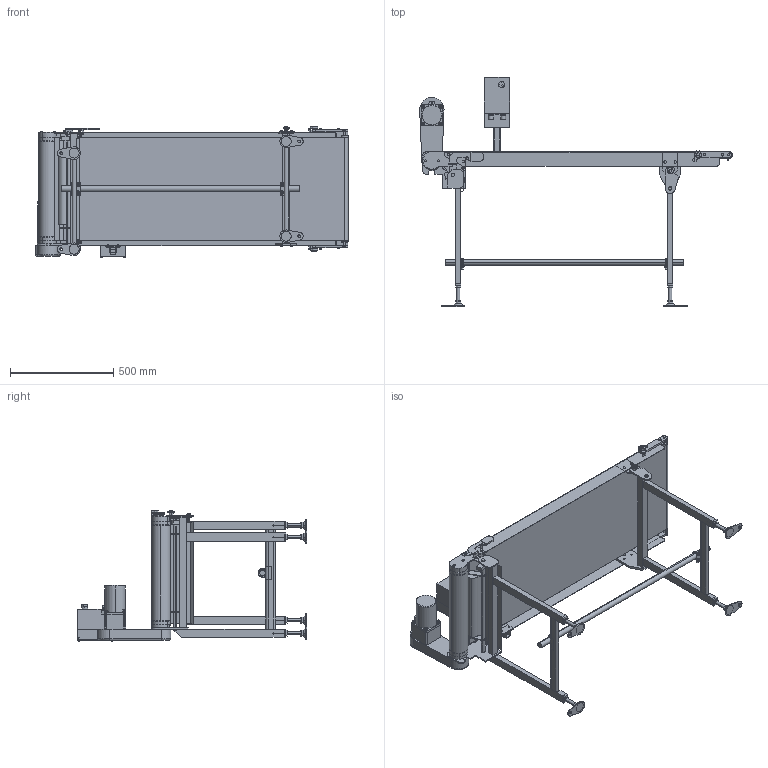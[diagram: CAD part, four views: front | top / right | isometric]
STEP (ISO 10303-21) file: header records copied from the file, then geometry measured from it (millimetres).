
FILE_DESCRIPTION( (''), '2;1');
FILE_NAME ('TBH200-OD-309-500-150-R-IVH-60.stp','2025-01-30T14:48:41',(''),(''),'spGate 20.6.2 (****-****-****-****)','','');
FILE_SCHEMA (('AUTOMOTIVE_DESIGN'));
Length unit declared in the file: millimetre
Products named in the file (80): NewModel; TEMP_X_T-prt0; TEMP_X_T-prt1; TEMP_X_T-prt2; TEMP_X_T-prt3; TEMP_X_T-prt4; TEMP_X_T-prt5; TEMP_X_T-prt6; TEMP_X_T-prt7; TEMP_X_T-prt8; TEMP_X_T-prt9; TEMP_X_T-prt10; TEMP_X_T-prt11; TEMP_X_T-prt12; TEMP_X_T-prt13; TEMP_X_T-prt14; TEMP_X_T-prt15; TEMP_X_T-prt16; TEMP_X_T-prt17; TEMP_X_T-prt18; TEMP_X_T-prt19; TEMP_X_T-prt20; TEMP_X_T-prt21; TEMP_X_T-prt22; TEMP_X_T-prt23; TEMP_X_T-prt24; TEMP_X_T-prt25; TEMP_X_T-prt26; TEMP_X_T-prt27; TEMP_X_T-prt28; TEMP_X_T-prt29; TEMP_X_T-prt30; TEMP_X_T-prt31; TEMP_X_T-prt32; TEMP_X_T-prt33; TEMP_X_T-prt34; TEMP_X_T-prt35; TEMP_X_T-prt36; TEMP_X_T-prt37; TEMP_X_T-prt38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
Assembly tree (79 placements, depth 2):
  NewModel
    TEMP_X_T-prt0
    TEMP_X_T-prt1
    TEMP_X_T-prt2
    TEMP_X_T-prt3
    TEMP_X_T-prt4
    TEMP_X_T-prt5
    TEMP_X_T-prt6
    TEMP_X_T-prt7
    TEMP_X_T-prt8
    TEMP_X_T-prt9
    TEMP_X_T-prt10
    TEMP_X_T-prt11
    TEMP_X_T-prt12
    TEMP_X_T-prt13
    TEMP_X_T-prt14
    TEMP_X_T-prt15
    TEMP_X_T-prt16
    TEMP_X_T-prt17
    TEMP_X_T-prt18
    TEMP_X_T-prt19
    TEMP_X_T-prt20
    TEMP_X_T-prt21
    TEMP_X_T-prt22
    TEMP_X_T-prt23
    TEMP_X_T-prt24
    TEMP_X_T-prt25
    TEMP_X_T-prt26
    TEMP_X_T-prt27
    TEMP_X_T-prt28
    TEMP_X_T-prt29
    TEMP_X_T-prt30
    TEMP_X_T-prt31
    TEMP_X_T-prt32
    TEMP_X_T-prt33
    TEMP_X_T-prt34
    TEMP_X_T-prt35
    TEMP_X_T-prt36
    TEMP_X_T-prt37
    TEMP_X_T-prt38
    TEMP_X_T-prt39
    TEMP_X_T-prt40
    TEMP_X_T-prt41
    TEMP_X_T-prt42
    TEMP_X_T-prt43
    TEMP_X_T-prt44
    TEMP_X_T-prt45
    TEMP_X_T-prt46
    TEMP_X_T-prt47
    TEMP_X_T-prt48
    TEMP_X_T-prt49
    TEMP_X_T-prt50
    TEMP_X_T-prt51
    TEMP_X_T-prt52
    TEMP_X_T-prt53
    TEMP_X_T-prt54
    TEMP_X_T-prt55
    TEMP_X_T-prt56
    TEMP_X_T-prt57
    TEMP_X_T-prt58
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Bounding box: 1515.49 x 1111 x 638.3 mm (x, y, z)
Volume: 21233348.1 mm3; surface area: 6991539.8 mm2
Topology: 79 solids, 79 shells, 1999 faces, 4690 edges, 2976 vertices
Faces by surface type: plane 1153, cylinder 568, bspline 268, sphere 10
Entity records: 101401 total; most frequent: CARTESIAN_POINT 15881, ORIENTED_EDGE 9344, DIRECTION 9251, COLOUR_RGB 6750, PRESENTATION_STYLE_ASSIGNMENT 6750, STYLED_ITEM 6750, EDGE_CURVE 4672, DRAUGHTING_PRE_DEFINED_CURVE_FONT 4672
